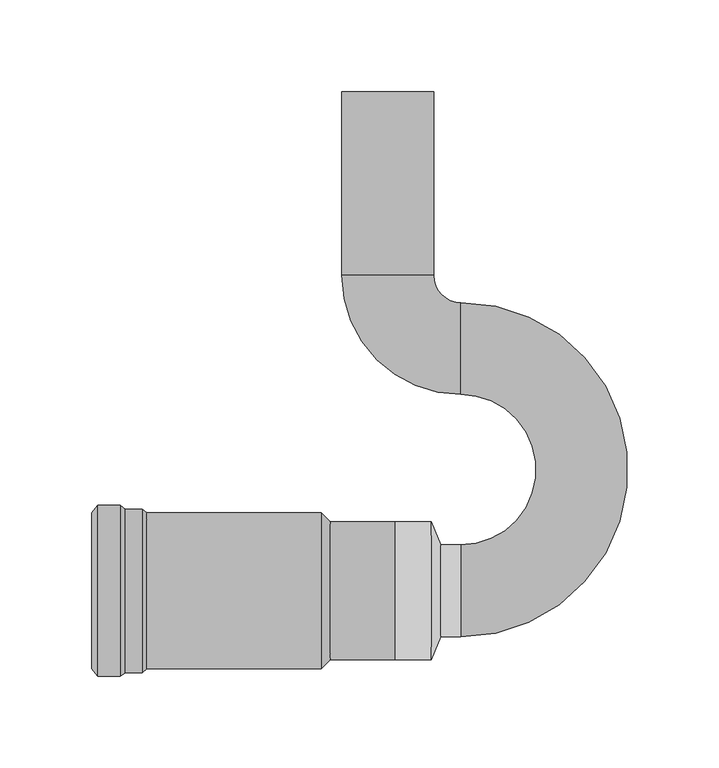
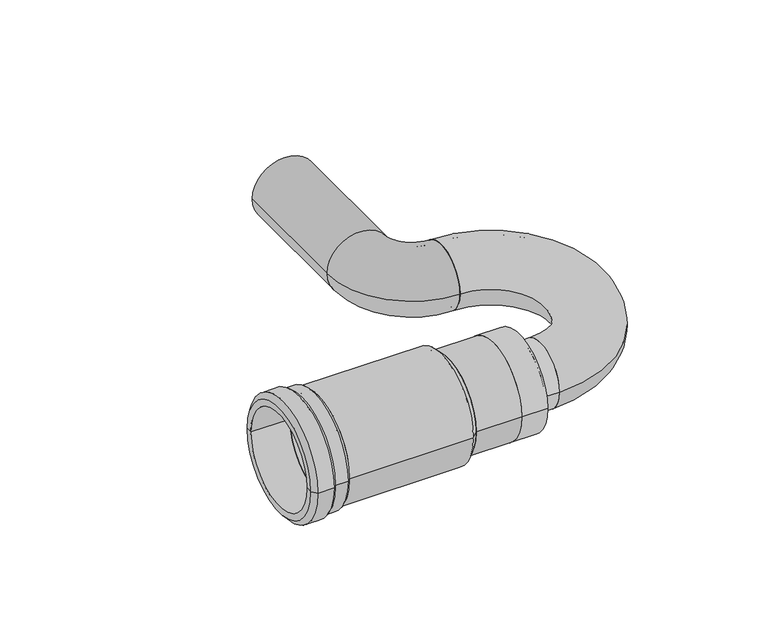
"""IFC4 building model written with IfcOpenShell, lengths in millimetres: pipe fitting geometry, Superdrain Trap with long socket : Superdrain Trap with long socket."""

from ifc_helpers import new_model, si_unit, point, frame, origin, origin_2d, place, context, project, spatial, polyline, circle_curve, ellipse_curve, trimmed, segment, composite_curve, outline, extrude, source, transform, mapped, element, save
from ifc_brep_helpers import plane_surface, cylinder_surface, revolved_surface, advanced_brep


def pipe_fitting_3becbbaa(model_context):
    return source(origin(), model_context, "Body", "SolidModel", [
        extrude(outline(composite_curve([segment(trimmed(circle_curve(origin_2d(), 37.5), [point((37.5, 0.0))], [point((-37.5, 0.0))], False, "CARTESIAN"), True, "CONTINUOUS"), segment(trimmed(circle_curve(origin_2d(), 37.5), [point((-37.5, 0.0))], [point((37.5, 0.0))], False, "CARTESIAN"), True, "CONTINUOUS")], self_intersect=False), holes=[composite_curve([segment(trimmed(circle_curve(origin_2d(), 34.5), [point((34.5, 0.0))], [point((-34.5, 0.0))], True, "CARTESIAN"), True, "CONTINUOUS"), segment(trimmed(circle_curve(origin_2d(), 34.5), [point((-34.5, 0.0))], [point((34.5, 0.0))], True, "CARTESIAN"), True, "CONTINUOUS")], self_intersect=False)]), frame((-31.2, 0.0, 0.0), z_axis=(1.0, 0.0, 0.0), x_axis=(0.0, 1.0, 0.0)), (0.0, 0.0, 1.0), 35.0),
        advanced_brep(
        [(39.8, 25.0, 0.0), (39.8, -25.0, 0.0), (28.8, -25.0, 0.0), (28.8, 25.0, 0.0), (39.8, 22.0, 0.0), (39.8, -22.0, 0.0), (28.8, 22.0, 0.0), (28.8, -22.0, 0.0), (23.8, 34.5, 0.0), (23.8, -34.5, 0.0), (3.8, 34.5, 0.0), (3.8, -34.5, 0.0), (3.8, 37.5, 0.0), (3.8, -37.5, 0.0), (23.8, 37.5, 0.0), (23.8, -37.5, 0.0)],
        [
            (0, 1, circle_curve(frame((39.8, 0.0, 0.0), z_axis=(-1.0, 0.0, 0.0), x_axis=(0.0, -1.0, 0.0)), 25.0)),
            (1, 2),
            (2, 3, circle_curve(frame((28.8, 0.0, 0.0), z_axis=(1.0, 0.0, 0.0), x_axis=(0.0, -1.0, 0.0)), 25.0)),
            (3, 0),
            (1, 0, circle_curve(frame((39.8, 0.0, 0.0), z_axis=(-1.0, 0.0, 0.0), x_axis=(0.0, -1.0, 0.0)), 25.0)),
            (3, 2, circle_curve(frame((28.8, 0.0, 0.0), z_axis=(1.0, 0.0, 0.0), x_axis=(0.0, -1.0, 0.0)), 25.0)),
            (4, 5, circle_curve(frame((39.8, 0.0, 0.0), z_axis=(-1.0, 0.0, 0.0), x_axis=(0.0, -1.0, 0.0)), 22.0)),
            (5, 1),
            (0, 4),
            (5, 4, circle_curve(frame((39.8, 0.0, 0.0), z_axis=(-1.0, 0.0, 0.0), x_axis=(0.0, -1.0, 0.0)), 22.0)),
            (6, 7, circle_curve(frame((28.8, 0.0, 0.0), z_axis=(-1.0, 0.0, 0.0), x_axis=(0.0, -1.0, 0.0)), 22.0)),
            (7, 5),
            (4, 6),
            (7, 6, circle_curve(frame((28.8, 0.0, 0.0), z_axis=(-1.0, 0.0, 0.0), x_axis=(0.0, -1.0, 0.0)), 22.0)),
            (8, 9, circle_curve(frame((23.8, 0.0, 0.0), z_axis=(-1.0, 0.0, 0.0), x_axis=(0.0, -1.0, 0.0)), 34.5)),
            (9, 7),
            (6, 8),
            (9, 8, circle_curve(frame((23.8, 0.0, 0.0), z_axis=(-1.0, 0.0, 0.0), x_axis=(0.0, -1.0, 0.0)), 34.5)),
            (10, 11, circle_curve(frame((3.8, 0.0, 0.0), z_axis=(-1.0, 0.0, 0.0), x_axis=(0.0, -1.0, 0.0)), 34.5)),
            (11, 9),
            (8, 10),
            (11, 10, circle_curve(frame((3.8, 0.0, 0.0), z_axis=(-1.0, 0.0, 0.0), x_axis=(0.0, -1.0, 0.0)), 34.5)),
            (12, 13, circle_curve(frame((3.8, 0.0, 0.0), z_axis=(-1.0, 0.0, 0.0), x_axis=(0.0, -1.0, 0.0)), 37.5)),
            (13, 11),
            (10, 12),
            (13, 12, circle_curve(frame((3.8, 0.0, 0.0), z_axis=(-1.0, 0.0, 0.0), x_axis=(0.0, -1.0, 0.0)), 37.5)),
            (14, 15, circle_curve(frame((23.8, 0.0, 0.0), z_axis=(-1.0, 0.0, 0.0), x_axis=(0.0, -1.0, 0.0)), 37.5)),
            (15, 13),
            (12, 14),
            (15, 14, circle_curve(frame((23.8, 0.0, 0.0), z_axis=(-1.0, 0.0, 0.0), x_axis=(0.0, -1.0, 0.0)), 37.5)),
            (2, 15),
            (14, 3),
        ],
        [
            cylinder_surface(frame((-113.3591502, 0.0, 0.0), z_axis=(1.0, 0.0, 0.0), x_axis=(0.0, -1.0, 0.0)), 25.0),
            plane_surface(frame((39.8, 0.0, 0.0), z_axis=(1.0, 0.0, 0.0), x_axis=(0.0, -1.0, 0.0))),
            revolved_surface(polyline([(39.8, -22.0, 0.0), (28.799999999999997, -22.0, 0.0)]), (-113.3591502, 0.0, 0.0), (1.0, 0.0, 0.0)),
            revolved_surface(polyline([(28.8, -22.0, 0.0), (23.8, -34.5, 0.0)]), (-113.3591502, 0.0, 0.0), (1.0, 0.0, 0.0)),
            revolved_surface(polyline([(23.799999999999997, -34.5, 0.0), (3.799999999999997, -34.5, 0.0)]), (-113.3591502, 0.0, 0.0), (1.0, 0.0, 0.0)),
            plane_surface(frame((3.8, 0.0, 0.0), z_axis=(-1.0, 0.0, 0.0), x_axis=(0.0, -1.0, 0.0))),
            cylinder_surface(frame((-113.3591502, 0.0, 0.0), z_axis=(1.0, 0.0, 0.0), x_axis=(0.0, -1.0, 0.0)), 37.5),
            revolved_surface(polyline([(23.8, -37.5, 0.0), (28.8, -25.0, 0.0)]), (-113.3591502, 0.0, 0.0), (1.0, 0.0, 0.0)),
        ],
        [
            (0, [[1, 2, 3, 4]]),
            (0, [[5, -4, 6, -2]]),
            (1, [[7, 8, -1, 9]]),
            (1, [[10, -9, -5, -8]]),
            (2, [[11, 12, -7, 13]]),
            (2, [[14, -13, -10, -12]]),
            (3, [[15, 16, -11, 17]]),
            (3, [[18, -17, -14, -16]]),
            (4, [[19, 20, -15, 21]]),
            (4, [[22, -21, -18, -20]]),
            (5, [[23, 24, -19, 25]]),
            (5, [[26, -25, -22, -24]]),
            (6, [[27, 28, -23, 29]]),
            (6, [[30, -29, -26, -28]]),
            (7, [[-3, 31, -27, 32]]),
            (7, [[-6, -32, -30, -31]]),
        ],
    ),
        advanced_brep(
        [(-131.2, -42.5, 0.0), (-131.2, 42.5, 0.0), (-36.2, 42.5, 0.0), (-36.2, -42.5, 0.0), (-131.2, -37.5, 0.0), (-131.2, 37.5, 0.0), (-31.2, -37.5, 0.0), (-31.2, 37.5, 0.0)],
        [
            (0, 1, circle_curve(frame((-131.2, 0.0, 0.0), z_axis=(1.0, 0.0, 0.0), x_axis=(0.0, 1.0, 0.0)), 42.5)),
            (1, 2),
            (2, 3, circle_curve(frame((-36.2, 0.0, 0.0), z_axis=(-1.0, 0.0, 0.0), x_axis=(0.0, 1.0, 0.0)), 42.5)),
            (3, 0),
            (1, 0, circle_curve(frame((-131.2, 0.0, 0.0), z_axis=(1.0, 0.0, 0.0), x_axis=(0.0, 1.0, 0.0)), 42.5)),
            (3, 2, circle_curve(frame((-36.2, 0.0, 0.0), z_axis=(-1.0, 0.0, 0.0), x_axis=(0.0, 1.0, 0.0)), 42.5)),
            (4, 5, circle_curve(frame((-131.2, 0.0, 0.0), z_axis=(1.0, 0.0, 0.0), x_axis=(0.0, 1.0, 0.0)), 37.5)),
            (5, 1),
            (0, 4),
            (5, 4, circle_curve(frame((-131.2, 0.0, 0.0), z_axis=(1.0, 0.0, 0.0), x_axis=(0.0, 1.0, 0.0)), 37.5)),
            (6, 7, circle_curve(frame((-31.2, 0.0, 0.0), z_axis=(1.0, 0.0, 0.0), x_axis=(0.0, 1.0, 0.0)), 37.5)),
            (7, 5),
            (4, 6),
            (7, 6, circle_curve(frame((-31.2, 0.0, 0.0), z_axis=(1.0, 0.0, 0.0), x_axis=(0.0, 1.0, 0.0)), 37.5)),
            (2, 7),
            (6, 3),
        ],
        [
            cylinder_surface(frame((-144.519266, 0.0, 0.0), z_axis=(-1.0, 0.0, 0.0), x_axis=(0.0, 1.0, 0.0)), 42.5),
            plane_surface(frame((-131.2, 0.0, 0.0), z_axis=(-1.0, 0.0, 0.0), x_axis=(0.0, 1.0, 0.0))),
            revolved_surface(polyline([(-131.2, 37.5, 0.0), (-31.200000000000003, 37.5, 0.0)]), (-144.519266, 0.0, 0.0), (-1.0, 0.0, 0.0)),
            revolved_surface(polyline([(-31.2, 37.5, 0.0), (-36.2, 42.5, 0.0)]), (-144.519266, 0.0, 0.0), (-1.0, 0.0, 0.0)),
        ],
        [
            (0, [[1, 2, 3, 4]]),
            (0, [[5, -4, 6, -2]]),
            (1, [[7, 8, -1, 9]]),
            (1, [[10, -9, -5, -8]]),
            (2, [[11, 12, -7, 13]]),
            (2, [[14, -13, -10, -12]]),
            (3, [[-3, 15, -11, 16]]),
            (3, [[-6, -16, -14, -15]]),
        ],
    ),
        advanced_brep(
        [(39.8, -25.0, 0.0), (39.8, 25.0, 0.0), (39.8, -22.0, 0.0), (39.8, 22.0, 0.0), (39.8, 157.0, 0.0), (39.8, 107.0, 0.0), (39.8, 154.0, 0.0), (39.8, 110.0, 0.0)],
        [
            (0, 1, circle_curve(frame((39.8, 0.0, 0.0), z_axis=(-1.0, 0.0, 0.0), x_axis=(0.0, 1.0, 0.0)), 25.0)),
            (1, 0, circle_curve(frame((39.8, 0.0, 0.0), z_axis=(-1.0, 0.0, 0.0), x_axis=(0.0, 1.0, 0.0)), 25.0)),
            (2, 3, circle_curve(frame((39.8, 0.0, 0.0), z_axis=(1.0, 0.0, 0.0), x_axis=(0.0, 1.0, 0.0)), 22.0)),
            (3, 2, circle_curve(frame((39.8, 0.0, 0.0), z_axis=(1.0, 0.0, 0.0), x_axis=(0.0, 1.0, 0.0)), 22.0)),
            (4, 5, circle_curve(frame((39.8, 132.0, 0.0), z_axis=(-1.0, 0.0, 0.0), x_axis=(0.0, -1.0, 0.0)), 25.0)),
            (5, 4, circle_curve(frame((39.8, 132.0, 0.0), z_axis=(-1.0, 0.0, 0.0), x_axis=(0.0, -1.0, 0.0)), 25.0)),
            (6, 7, circle_curve(frame((39.8, 132.0, 0.0), z_axis=(1.0, 0.0, 0.0), x_axis=(0.0, -1.0, 0.0)), 22.0)),
            (7, 6, circle_curve(frame((39.8, 132.0, 0.0), z_axis=(1.0, 0.0, 0.0), x_axis=(0.0, -1.0, 0.0)), 22.0)),
            (5, 1, circle_curve(frame((39.8, 66.0, 0.0), z_axis=(0.0, 0.0, -1.0), x_axis=(0.0, -1.0, 0.0)), 41.0)),
            (0, 4, circle_curve(frame((39.8, 66.0, 0.0), z_axis=(0.0, 0.0, 1.0), x_axis=(0.0, -1.0, 0.0)), 91.0)),
            (7, 3, circle_curve(frame((39.8, 66.0, 0.0), z_axis=(0.0, 0.0, -1.0), x_axis=(0.0, -1.0, 0.0)), 44.0)),
            (2, 6, circle_curve(frame((39.8, 66.0, 0.0), z_axis=(0.0, 0.0, 1.0), x_axis=(0.0, -1.0, 0.0)), 88.0)),
        ],
        [
            plane_surface(frame((39.8, 0.0, 0.0), z_axis=(-1.0, 0.0, 0.0), x_axis=(0.0, 0.0, 1.0))),
            plane_surface(frame((39.8, 132.0, 0.0), z_axis=(-1.0, 0.0, 0.0), x_axis=(0.0, 0.0, 1.0))),
            revolved_surface(trimmed(ellipse_curve(frame((39.8, 0.0, 0.0), z_axis=(-1.0, 0.0, 0.0), x_axis=(0.0, 1.0, 0.0)), 25.0, 25.0), [point((39.8, -25.0, 0.0))], [point((39.8, 25.0, 0.0))], True, "CARTESIAN"), (39.8, 66.0, 0.0), (0.0, 0.0, 1.0)),
            revolved_surface(trimmed(ellipse_curve(frame((39.8, 0.0, 0.0), z_axis=(-1.0, 0.0, 0.0), x_axis=(0.0, 1.0, 0.0)), 25.0, 25.0), [point((39.8, 25.0, 0.0))], [point((39.8, -25.0, 0.0))], True, "CARTESIAN"), (39.8, 66.0, 0.0), (0.0, 0.0, 1.0)),
            revolved_surface(trimmed(ellipse_curve(frame((39.8, 0.0, 0.0), z_axis=(1.0, 0.0, 0.0), x_axis=(0.0, 1.0, 0.0)), 22.0, 22.0), [point((39.8, -22.0, 0.0))], [point((39.8, 22.0, 0.0))], True, "CARTESIAN"), (39.8, 66.0, 0.0), (0.0, 0.0, 1.0)),
            revolved_surface(trimmed(ellipse_curve(frame((39.8, 0.0, 0.0), z_axis=(1.0, 0.0, 0.0), x_axis=(0.0, 1.0, 0.0)), 22.0, 22.0), [point((39.8, 22.0, 0.0))], [point((39.8, -22.0, 0.0))], True, "CARTESIAN"), (39.8, 66.0, 0.0), (0.0, 0.0, 1.0)),
        ],
        [
            (0, [[1, 2], [3, 4]]),
            (1, [[5, 6], [7, 8]]),
            (2, [[9, -1, 10, -6]]),
            (3, [[-10, -2, -9, -5]]),
            (4, [[11, -3, 12, -8]]),
            (5, [[-12, -4, -11, -7]]),
        ],
    ),
        advanced_brep(
        [(-25.0, 171.8, 0.0), (25.0, 171.8, 0.0), (-22.0, 171.8, 0.0), (22.0, 171.8, 0.0), (39.8, 107.0, 0.0), (39.8, 157.0, 0.0), (39.8, 110.0, 0.0), (39.8, 154.0, 0.0)],
        [
            (0, 1, circle_curve(frame((0.0, 171.8, 0.0), z_axis=(0.0, 1.0, 0.0), x_axis=(1.0, 0.0, 0.0)), 25.0)),
            (1, 0, circle_curve(frame((0.0, 171.8, 0.0), z_axis=(0.0, 1.0, 0.0), x_axis=(1.0, 0.0, 0.0)), 25.0)),
            (2, 3, circle_curve(frame((0.0, 171.8, 0.0), z_axis=(0.0, -1.0, 0.0), x_axis=(1.0, 0.0, 0.0)), 22.0)),
            (3, 2, circle_curve(frame((0.0, 171.8, 0.0), z_axis=(0.0, -1.0, 0.0), x_axis=(1.0, 0.0, 0.0)), 22.0)),
            (4, 5, circle_curve(frame((39.8, 132.0, 0.0), z_axis=(1.0, 0.0, 0.0), x_axis=(0.0, 1.0, 0.0)), 25.0)),
            (5, 4, circle_curve(frame((39.8, 132.0, 0.0), z_axis=(1.0, 0.0, 0.0), x_axis=(0.0, 1.0, 0.0)), 25.0)),
            (6, 7, circle_curve(frame((39.8, 132.0, 0.0), z_axis=(-1.0, 0.0, 0.0), x_axis=(0.0, 1.0, 0.0)), 22.0)),
            (7, 6, circle_curve(frame((39.8, 132.0, 0.0), z_axis=(-1.0, 0.0, 0.0), x_axis=(0.0, 1.0, 0.0)), 22.0)),
            (5, 1, circle_curve(frame((39.8, 171.8, 0.0), z_axis=(0.0, 0.0, -1.0), x_axis=(-1.0, 0.0, 0.0)), 14.8)),
            (0, 4, circle_curve(frame((39.8, 171.8, 0.0), z_axis=(0.0, 0.0, 1.0), x_axis=(-1.0, 0.0, 0.0)), 64.8)),
            (7, 3, circle_curve(frame((39.8, 171.8, 0.0), z_axis=(0.0, 0.0, -1.0), x_axis=(-1.0, 0.0, 0.0)), 17.8)),
            (2, 6, circle_curve(frame((39.8, 171.8, 0.0), z_axis=(0.0, 0.0, 1.0), x_axis=(-1.0, 0.0, 0.0)), 61.8)),
        ],
        [
            plane_surface(frame((0.0, 171.8, 0.0), z_axis=(0.0, 1.0, 0.0), x_axis=(0.0, 0.0, 1.0))),
            plane_surface(frame((39.8, 132.0, 0.0), z_axis=(1.0, 0.0, 0.0), x_axis=(0.0, 0.0, 1.0))),
            revolved_surface(trimmed(ellipse_curve(frame((0.0, 171.8, 0.0), z_axis=(0.0, 1.0, 0.0), x_axis=(1.0, 0.0, 0.0)), 25.0, 25.0), [point((-25.0, 171.8, 0.0))], [point((25.0, 171.8, 0.0))], True, "CARTESIAN"), (39.8, 171.8, 0.0), (0.0, 0.0, 1.0)),
            revolved_surface(trimmed(ellipse_curve(frame((0.0, 171.8, 0.0), z_axis=(0.0, 1.0, 0.0), x_axis=(1.0, 0.0, 0.0)), 25.0, 25.0), [point((25.0, 171.8, 0.0))], [point((-25.0, 171.8, 0.0))], True, "CARTESIAN"), (39.8, 171.8, 0.0), (0.0, 0.0, 1.0)),
            revolved_surface(trimmed(ellipse_curve(frame((0.0, 171.8, 0.0), z_axis=(0.0, -1.0, 0.0), x_axis=(1.0, 0.0, 0.0)), 22.0, 22.0), [point((-22.0, 171.8, 0.0))], [point((22.0, 171.8, 0.0))], True, "CARTESIAN"), (39.8, 171.8, 0.0), (0.0, 0.0, 1.0)),
            revolved_surface(trimmed(ellipse_curve(frame((0.0, 171.8, 0.0), z_axis=(0.0, -1.0, 0.0), x_axis=(1.0, 0.0, 0.0)), 22.0, 22.0), [point((22.0, 171.8, 0.0))], [point((-22.0, 171.8, 0.0))], True, "CARTESIAN"), (39.8, 171.8, 0.0), (0.0, 0.0, 1.0)),
        ],
        [
            (0, [[1, 2], [3, 4]]),
            (1, [[5, 6], [7, 8]]),
            (2, [[9, -1, 10, -6]]),
            (3, [[-10, -2, -9, -5]]),
            (4, [[11, -3, 12, -8]]),
            (5, [[-12, -4, -11, -7]]),
        ],
    ),
        advanced_brep(
        [(-143.106565, -44.5, 0.0), (-143.106565, 44.5, 0.0), (-133.846874, 44.5, 0.0), (-133.846874, -44.5, 0.0), (-157.8706809, -46.5, 0.0), (-157.8706809, 46.5, 0.0), (-145.753439, 46.5, 0.0), (-145.753439, -46.5, 0.0), (-161.2, -42.532272, 0.0), (-161.2, 42.532272, 0.0), (-161.2, -37.5, 0.0), (-161.2, 37.5, 0.0), (-131.2, -37.5, 0.0), (-131.2, 37.5, 0.0), (-131.2, -42.5, 0.0), (-131.2, 42.5, 0.0)],
        [
            (0, 1, circle_curve(frame((-143.106565, 0.0, 0.0), z_axis=(1.0, 0.0, 0.0), x_axis=(0.0, 1.0, 0.0)), 44.5)),
            (1, 2),
            (2, 3, circle_curve(frame((-133.846874, 0.0, 0.0), z_axis=(-1.0, 0.0, 0.0), x_axis=(0.0, 1.0, 0.0)), 44.5)),
            (3, 0),
            (1, 0, circle_curve(frame((-143.106565, 0.0, 0.0), z_axis=(1.0, 0.0, 0.0), x_axis=(0.0, 1.0, 0.0)), 44.5)),
            (3, 2, circle_curve(frame((-133.846874, 0.0, 0.0), z_axis=(-1.0, 0.0, 0.0), x_axis=(0.0, 1.0, 0.0)), 44.5)),
            (4, 5, circle_curve(frame((-157.8706809, 0.0, 0.0), z_axis=(1.0, 0.0, 0.0), x_axis=(0.0, 1.0, 0.0)), 46.5)),
            (5, 6),
            (6, 7, circle_curve(frame((-145.753439, 0.0, 0.0), z_axis=(-1.0, 0.0, 0.0), x_axis=(0.0, 1.0, 0.0)), 46.5)),
            (7, 4),
            (5, 4, circle_curve(frame((-157.8706809, 0.0, 0.0), z_axis=(1.0, 0.0, 0.0), x_axis=(0.0, 1.0, 0.0)), 46.5)),
            (7, 6, circle_curve(frame((-145.753439, 0.0, 0.0), z_axis=(-1.0, 0.0, 0.0), x_axis=(0.0, 1.0, 0.0)), 46.5)),
            (8, 9, circle_curve(frame((-161.2, 0.0, 0.0), z_axis=(1.0, 0.0, 0.0), x_axis=(0.0, 1.0, 0.0)), 42.532272)),
            (9, 5),
            (4, 8),
            (9, 8, circle_curve(frame((-161.2, 0.0, 0.0), z_axis=(1.0, 0.0, 0.0), x_axis=(0.0, 1.0, 0.0)), 42.532272)),
            (10, 11, circle_curve(frame((-161.2, 0.0, 0.0), z_axis=(1.0, 0.0, 0.0), x_axis=(0.0, 1.0, 0.0)), 37.5)),
            (11, 9),
            (8, 10),
            (11, 10, circle_curve(frame((-161.2, 0.0, 0.0), z_axis=(1.0, 0.0, 0.0), x_axis=(0.0, 1.0, 0.0)), 37.5)),
            (12, 13, circle_curve(frame((-131.2, 0.0, 0.0), z_axis=(1.0, 0.0, 0.0), x_axis=(0.0, 1.0, 0.0)), 37.5)),
            (13, 11),
            (10, 12),
            (13, 12, circle_curve(frame((-131.2, 0.0, 0.0), z_axis=(1.0, 0.0, 0.0), x_axis=(0.0, 1.0, 0.0)), 37.5)),
            (14, 15, circle_curve(frame((-131.2, 0.0, 0.0), z_axis=(1.0, 0.0, 0.0), x_axis=(0.0, 1.0, 0.0)), 42.5)),
            (15, 13),
            (12, 14),
            (15, 14, circle_curve(frame((-131.2, 0.0, 0.0), z_axis=(1.0, 0.0, 0.0), x_axis=(0.0, 1.0, 0.0)), 42.5)),
            (2, 15),
            (14, 3),
            (6, 1),
            (0, 7),
        ],
        [
            cylinder_surface(frame((-273.891787, 0.0, 0.0), z_axis=(-1.0, 0.0, 0.0), x_axis=(0.0, 1.0, 0.0)), 44.5),
            cylinder_surface(frame((-273.891787, 0.0, 0.0), z_axis=(-1.0, 0.0, 0.0), x_axis=(0.0, 1.0, 0.0)), 46.5),
            revolved_surface(polyline([(-157.8706809, 46.5, 0.0), (-161.2, 42.532272, 0.0)]), (-273.891787, 0.0, 0.0), (-1.0, 0.0, 0.0)),
            plane_surface(frame((-161.2, 0.0, 0.0), z_axis=(-1.0, 0.0, 0.0), x_axis=(0.0, 1.0, 0.0))),
            revolved_surface(polyline([(-161.2, 37.5, 0.0), (-131.2, 37.5, 0.0)]), (-273.891787, 0.0, 0.0), (-1.0, 0.0, 0.0)),
            plane_surface(frame((-131.2, 0.0, 0.0), z_axis=(1.0, 0.0, 0.0), x_axis=(0.0, 1.0, 0.0))),
            revolved_surface(polyline([(-131.2, 42.5, 0.0), (-133.846874, 44.5, 0.0)]), (-273.891787, 0.0, 0.0), (-1.0, 0.0, 0.0)),
            revolved_surface(polyline([(-143.106565, 44.5, 0.0), (-145.753439, 46.5, 0.0)]), (-273.891787, 0.0, 0.0), (-1.0, 0.0, 0.0)),
        ],
        [
            (0, [[1, 2, 3, 4]]),
            (0, [[5, -4, 6, -2]]),
            (1, [[7, 8, 9, 10]]),
            (1, [[11, -10, 12, -8]]),
            (2, [[13, 14, -7, 15]]),
            (2, [[16, -15, -11, -14]]),
            (3, [[17, 18, -13, 19]]),
            (3, [[20, -19, -16, -18]]),
            (4, [[21, 22, -17, 23]]),
            (4, [[24, -23, -20, -22]]),
            (5, [[25, 26, -21, 27]]),
            (5, [[28, -27, -24, -26]]),
            (6, [[-3, 29, -25, 30]]),
            (6, [[-6, -30, -28, -29]]),
            (7, [[-9, 31, -1, 32]]),
            (7, [[-12, -32, -5, -31]]),
        ],
    ),
        extrude(outline(composite_curve([segment(trimmed(circle_curve(origin_2d(), 25.0), [point((0.0, 25.0))], [point((0.0, -25.0))], False, "CARTESIAN"), True, "CONTINUOUS"), segment(trimmed(circle_curve(origin_2d(), 25.0), [point((0.0, -25.0))], [point((0.0, 25.0))], False, "CARTESIAN"), True, "CONTINUOUS")], self_intersect=False), holes=[composite_curve([segment(trimmed(circle_curve(origin_2d(), 22.0), [point((0.0, 22.0))], [point((0.0, -22.0))], True, "CARTESIAN"), True, "CONTINUOUS"), segment(trimmed(circle_curve(origin_2d(), 22.0), [point((0.0, -22.0))], [point((0.0, 22.0))], True, "CARTESIAN"), True, "CONTINUOUS")], self_intersect=False)]), frame((0.0, 171.8, 0.0), z_axis=(0.0, 1.0, 0.0), x_axis=(0.0, 0.0, 1.0)), (0.0, 0.0, 1.0), 100.0),
    ])


if __name__ == "__main__":
    model = new_model("IFC4")
    model_context = context("Model", 3, world=origin())
    ifc_project = project(units=[si_unit("LENGTHUNIT", "METRE", prefix="MILLI")], contexts=[model_context])
    site = spatial("IfcSite", under=ifc_project)
    building = spatial("IfcBuilding", under=site)
    placement = place(None, origin())
    pipe_fitting_shape = pipe_fitting_3becbbaa(model_context)
    element("IfcPipeFitting", 1, ObjectType="Superdrain Trap with long socket : Superdrain Trap with long socket", at=placement, inside=building, context=model_context, shape_type="MappedRepresentation", body=[
        mapped(pipe_fitting_shape, transform((0.0, 0.0, 0.0), x_axis=(1.0, 0.0, 0.0), y_axis=(0.0, 1.0, 0.0), z_axis=(0.0, 0.0, 1.0))),
    ])
    save(model, "model.ifc")
